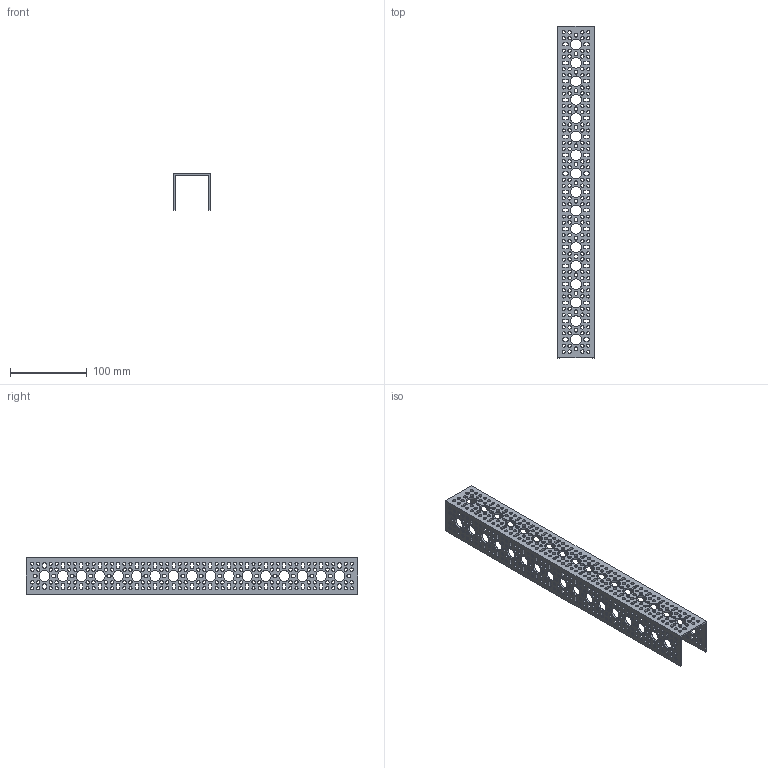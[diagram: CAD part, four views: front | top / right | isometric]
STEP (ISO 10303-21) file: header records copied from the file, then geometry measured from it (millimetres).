
FILE_DESCRIPTION (( 'STEP AP203' ), '1' );
FILE_NAME ('1100-0017-0432 rev1.STEP', '2017-05-12T21:16:40', ( '' ), ( '' ), 'SwSTEP 2.0', 'SolidWorks 2016', '' );
FILE_SCHEMA (( 'CONFIG_CONTROL_DESIGN' ));
Products named in the file (1): 1100-0017-0432 rev1
Bounding box: 48 x 432 x 48 mm (x, y, z)
Volume: 105016.7 mm3; surface area: 114450.5 mm2
Topology: 1 solids, 1 shells, 2299 faces, 6891 edges, 4594 vertices
Faces by surface type: cylinder 1545, plane 754
Entity records: 81548 total; most frequent: DIRECTION 14581, CARTESIAN_POINT 13785, ORIENTED_EDGE 13782, EDGE_CURVE 6891, AXIS2_PLACEMENT_3D 5390, VERTEX_POINT 4594, LINE 3801, VECTOR 3801
